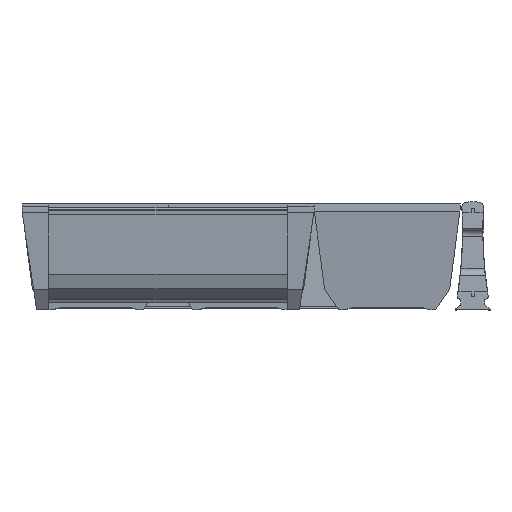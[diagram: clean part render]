
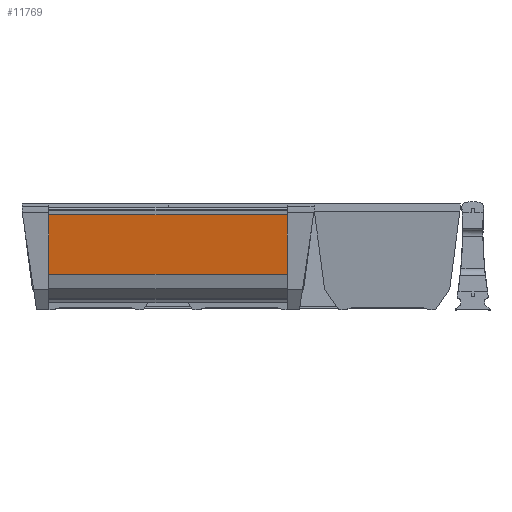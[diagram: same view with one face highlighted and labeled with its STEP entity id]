
A CAD part, front view. The second image highlights one B-rep face of the part: STEP entity #11769.
In plain terms, the highlighted planar face has unit normal (0, -0.991, -0.131).
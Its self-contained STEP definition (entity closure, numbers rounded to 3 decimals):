
#1746 = EDGE_LOOP ( 'NONE', ( #20582, #20583, #20584, #20585 ) ) ;
#4588 = CARTESIAN_POINT ( 'NONE',  ( 16.5, 8.199, 21.942 ) ) ;
#4625 = CARTESIAN_POINT ( 'NONE',  ( 164.5, 8.199, 21.942 ) ) ;
#4648 = CARTESIAN_POINT ( 'NONE',  ( 164.5, 2.926, 61.998 ) ) ;
#4658 = CARTESIAN_POINT ( 'NONE',  ( 16.5, 2.926, 61.998 ) ) ;
#6749 = VERTEX_POINT ( 'NONE', #4588 ) ;
#6786 = VERTEX_POINT ( 'NONE', #4625 ) ;
#6854 = VERTEX_POINT ( 'NONE', #4648 ) ;
#6864 = VERTEX_POINT ( 'NONE', #4658 ) ;
#9599 = FACE_OUTER_BOUND ( 'NONE', #1746, .T. ) ;
#11769 = ADVANCED_FACE ( 'NONE', ( #9599 ), #24571, .F. ) ;
#12052 = EDGE_CURVE ( 'NONE', #6854, #6864, #23376, .T. ) ;
#12093 = EDGE_CURVE ( 'NONE', #6786, #6749, #20760, .T. ) ;
#12116 = EDGE_CURVE ( 'NONE', #6749, #6864, #20833, .T. ) ;
#12118 = EDGE_CURVE ( 'NONE', #6854, #6786, #20834, .T. ) ;
#20582 = ORIENTED_EDGE ( 'NONE', *, *, #12118, .F. ) ;
#20583 = ORIENTED_EDGE ( 'NONE', *, *, #12052, .T. ) ;
#20584 = ORIENTED_EDGE ( 'NONE', *, *, #12116, .F. ) ;
#20585 = ORIENTED_EDGE ( 'NONE', *, *, #12093, .F. ) ;
#20760 = LINE ( 'NONE', #23963, #20761 ) ;
#20761 = VECTOR ( 'NONE', #23964, 1000. ) ;
#20833 = LINE ( 'NONE', #24081, #20835 ) ;
#20834 = LINE ( 'NONE', #24085, #20837 ) ;
#20835 = VECTOR ( 'NONE', #24082, 1000. ) ;
#20837 = VECTOR ( 'NONE', #24086, 1000. ) ;
#21282 = AXIS2_PLACEMENT_3D ( 'NONE', #24568, #24582, #24583 ) ;
#23376 = LINE ( 'NONE', #23711, #23378 ) ;
#23378 = VECTOR ( 'NONE', #23712, 1000. ) ;
#23711 = CARTESIAN_POINT ( 'NONE',  ( 170., 2.926, 61.998 ) ) ;
#23712 = DIRECTION ( 'NONE',  ( -1., 0., 0. ) ) ;
#23963 = CARTESIAN_POINT ( 'NONE',  ( 170., 8.199, 21.942 ) ) ;
#23964 = DIRECTION ( 'NONE',  ( -1., 0., 0. ) ) ;
#24081 = CARTESIAN_POINT ( 'NONE',  ( 16.5, 8.199, 21.942 ) ) ;
#24082 = DIRECTION ( 'NONE',  ( 0., -0.131, 0.991 ) ) ;
#24085 = CARTESIAN_POINT ( 'NONE',  ( 164.5, 8.199, 21.942 ) ) ;
#24086 = DIRECTION ( 'NONE',  ( 0., 0.131, -0.991 ) ) ;
#24568 = CARTESIAN_POINT ( 'NONE',  ( 170., 8.199, 21.942 ) ) ;
#24571 = PLANE ( 'NONE',  #21282 ) ;
#24582 = DIRECTION ( 'NONE',  ( 0., 0.991, 0.131 ) ) ;
#24583 = DIRECTION ( 'NONE',  ( 0., -0.131, 0.991 ) ) ;
